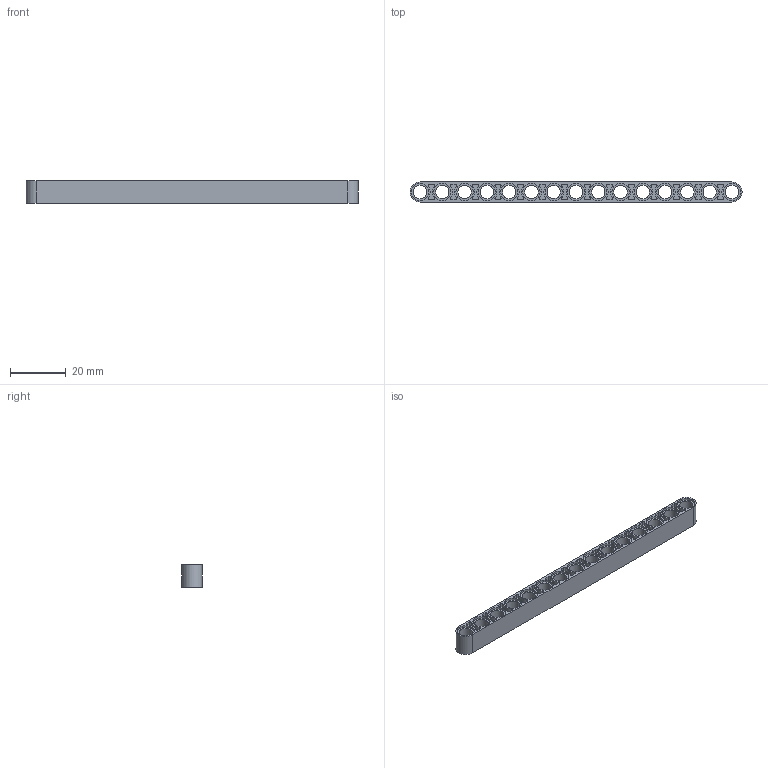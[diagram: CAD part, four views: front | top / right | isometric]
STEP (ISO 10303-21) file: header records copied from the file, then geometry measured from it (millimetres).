
FILE_DESCRIPTION(/* description */ ('Unknown'),/* implementation_level */ '2;1');
FILE_NAME(/* name */ 'Ye_4542579_AVV',/* time_stamp */ '2025-07-22T00:10:20+02:00',/* author */ ('Unknown'),/* organization */ ('Unknown'),/* preprocessor_version */ 'ST-DEVELOPER v19.4',/* originating_system */ 'Solid Edge',/* authorisation */ 'Unknown');
FILE_SCHEMA (('AUTOMOTIVE_DESIGN {1 0 10303 214 3 1 1}'));
Length unit declared in the file: millimetre
Products named in the file (1): Ye_4542579_AVV
Bounding box: 119.2 x 7.2 x 8 mm (x, y, z)
Volume: 3616.7 mm3; surface area: 6370.3 mm2
Topology: 1 solids, 1 shells, 333 faces, 819 edges, 546 vertices
Faces by surface type: cylinder 215, plane 118
Full cylindrical faces by diameter (mm): 4.8 x15, 6.2 x30
Entity records: 9908 total; most frequent: DIRECTION 1872, CARTESIAN_POINT 1654, ORIENTED_EDGE 1548, EDGE_CURVE 774, AXIS2_PLACEMENT_3D 764, VERTEX_POINT 546, EDGE_LOOP 466, FACE_BOUND 466
